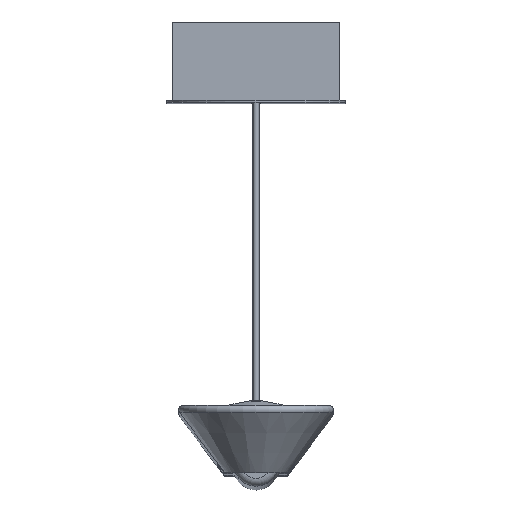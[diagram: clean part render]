
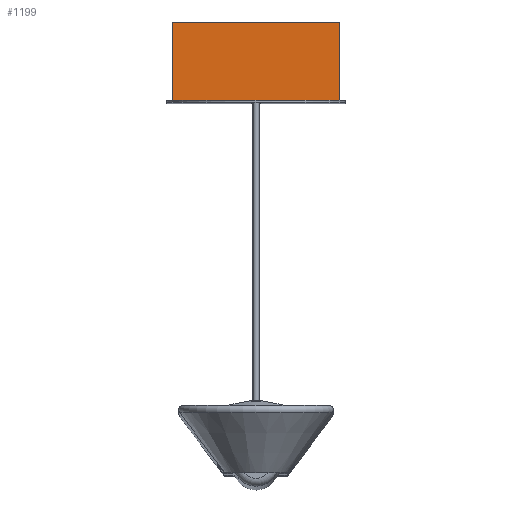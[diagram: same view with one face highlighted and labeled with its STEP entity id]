
A CAD part, top view. The second image highlights one B-rep face of the part: STEP entity #1199.
In plain terms, the highlighted planar face has unit normal (0, 0, 1) as drawn and (1, 0, 0) by its records, which use the part's own axes.
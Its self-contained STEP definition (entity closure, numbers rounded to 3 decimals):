
#105=PLANE('',#1403);
#158=FACE_OUTER_BOUND('',#227,.T.);
#227=EDGE_LOOP('',(#1009,#1010,#1011,#1012));
#343=LINE('',#2075,#455);
#344=LINE('',#2078,#456);
#345=LINE('',#2080,#457);
#346=LINE('',#2081,#458);
#455=VECTOR('',#1683,10.);
#456=VECTOR('',#1686,10.);
#457=VECTOR('',#1687,10.);
#458=VECTOR('',#1688,10.);
#607=VERTEX_POINT('',#2071);
#608=VERTEX_POINT('',#2073);
#609=VERTEX_POINT('',#2077);
#610=VERTEX_POINT('',#2079);
#750=EDGE_CURVE('',#607,#608,#343,.T.);
#751=EDGE_CURVE('',#607,#609,#344,.T.);
#752=EDGE_CURVE('',#610,#608,#345,.T.);
#753=EDGE_CURVE('',#609,#610,#346,.T.);
#1009=ORIENTED_EDGE('',*,*,#751,.F.);
#1010=ORIENTED_EDGE('',*,*,#750,.T.);
#1011=ORIENTED_EDGE('',*,*,#752,.F.);
#1012=ORIENTED_EDGE('',*,*,#753,.F.);
#1199=ADVANCED_FACE('',(#158),#105,.T.);
#1403=AXIS2_PLACEMENT_3D('',#2076,#1684,#1685);
#1683=DIRECTION('',(0.,1.,0.));
#1684=DIRECTION('center_axis',(1.,0.,0.));
#1685=DIRECTION('ref_axis',(0.,0.,-1.));
#1686=DIRECTION('',(0.,0.,1.));
#1687=DIRECTION('',(0.,0.,-1.));
#1688=DIRECTION('',(0.,1.,0.));
#2071=CARTESIAN_POINT('',(130.,1.,-37.5));
#2073=CARTESIAN_POINT('',(130.,36.,-37.5));
#2075=CARTESIAN_POINT('',(130.,1.,-37.5));
#2076=CARTESIAN_POINT('Origin',(130.,1.,37.5));
#2077=CARTESIAN_POINT('',(130.,1.,37.5));
#2078=CARTESIAN_POINT('',(130.,1.,18.75));
#2079=CARTESIAN_POINT('',(130.,36.,37.5));
#2080=CARTESIAN_POINT('',(130.,36.,-37.5));
#2081=CARTESIAN_POINT('',(130.,1.,37.5));
